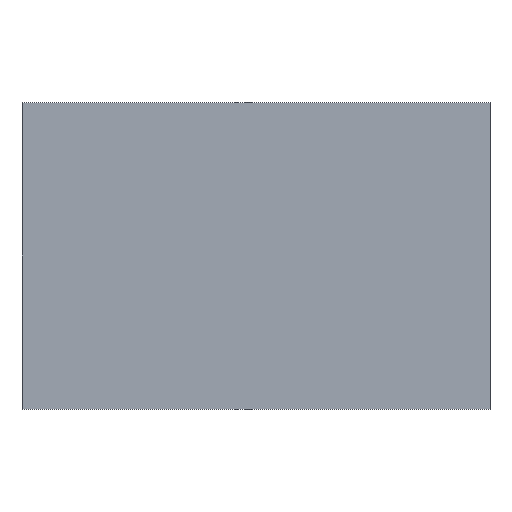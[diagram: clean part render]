
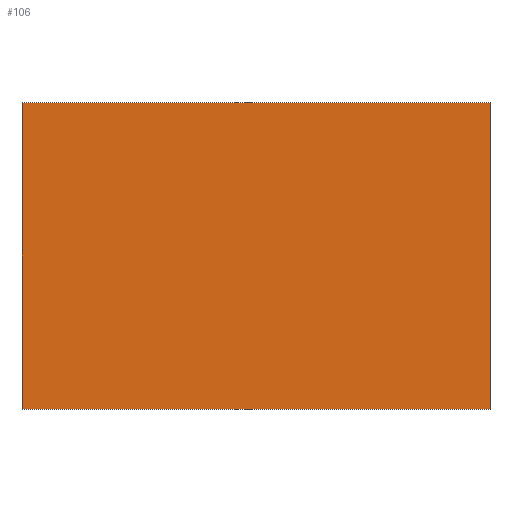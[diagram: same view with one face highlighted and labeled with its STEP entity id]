
A CAD part, front view. The second image highlights one B-rep face of the part: STEP entity #106.
In plain terms, the highlighted planar face has unit normal (0, -1, 0).
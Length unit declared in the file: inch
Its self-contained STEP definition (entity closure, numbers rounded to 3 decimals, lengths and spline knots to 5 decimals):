
#20=FACE_OUTER_BOUND('',#26,.T.);
#26=EDGE_LOOP('',(#91,#92,#93,#94));
#27=LINE('',#145,#39);
#31=LINE('',#153,#43);
#34=LINE('',#159,#46);
#37=LINE('',#164,#49);
#39=VECTOR('',#119,0.3937);
#43=VECTOR('',#125,0.3937);
#46=VECTOR('',#130,0.3937);
#49=VECTOR('',#135,0.3937);
#51=VERTEX_POINT('',#143);
#52=VERTEX_POINT('',#144);
#55=VERTEX_POINT('',#152);
#57=VERTEX_POINT('',#158);
#59=EDGE_CURVE('',#51,#52,#27,.T.);
#63=EDGE_CURVE('',#55,#51,#31,.T.);
#66=EDGE_CURVE('',#57,#55,#34,.T.);
#69=EDGE_CURVE('',#52,#57,#37,.T.);
#91=ORIENTED_EDGE('',*,*,#69,.F.);
#92=ORIENTED_EDGE('',*,*,#59,.F.);
#93=ORIENTED_EDGE('',*,*,#63,.F.);
#94=ORIENTED_EDGE('',*,*,#66,.F.);
#100=PLANE('',#114);
#106=ADVANCED_FACE('',(#20),#100,.F.);
#114=AXIS2_PLACEMENT_3D('',#167,#139,#140);
#119=DIRECTION('',(1.,0.,0.));
#125=DIRECTION('',(0.,0.,1.));
#130=DIRECTION('',(-1.,0.,0.));
#135=DIRECTION('',(0.,0.,-1.));
#139=DIRECTION('center_axis',(0.,1.,0.));
#140=DIRECTION('ref_axis',(1.,0.,0.));
#143=CARTESIAN_POINT('',(-0.305,0.,0.2));
#144=CARTESIAN_POINT('',(0.305,0.,0.2));
#145=CARTESIAN_POINT('',(-0.305,0.,0.2));
#152=CARTESIAN_POINT('',(-0.305,0.,-0.2));
#153=CARTESIAN_POINT('',(-0.305,0.,-0.2));
#158=CARTESIAN_POINT('',(0.305,0.,-0.2));
#159=CARTESIAN_POINT('',(0.305,0.,-0.2));
#164=CARTESIAN_POINT('',(0.305,0.,0.2));
#167=CARTESIAN_POINT('Origin',(0.,0.,0.));
